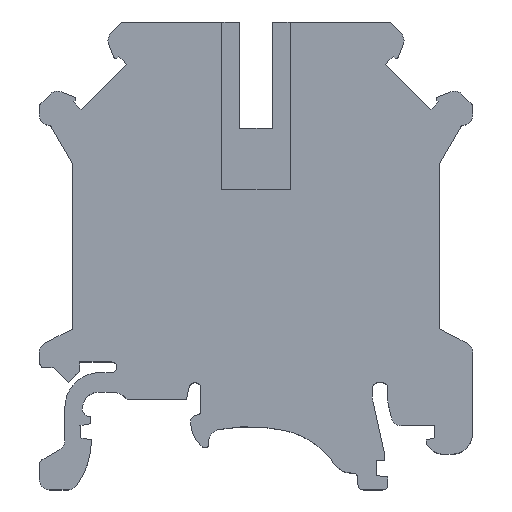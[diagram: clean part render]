
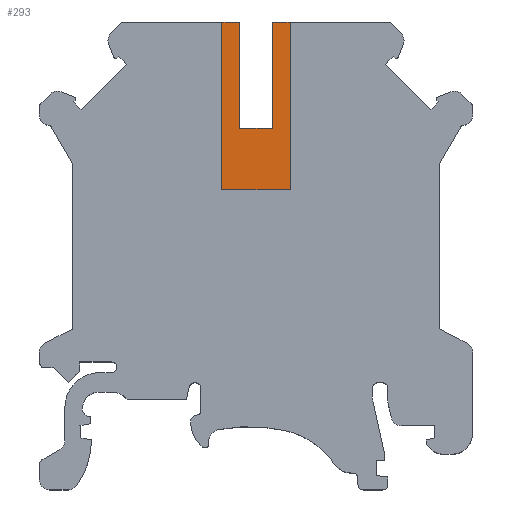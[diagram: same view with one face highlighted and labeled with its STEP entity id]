
A CAD part, top view. The second image highlights one B-rep face of the part: STEP entity #293.
In plain terms, the highlighted planar face has unit normal (0, 0, 1).
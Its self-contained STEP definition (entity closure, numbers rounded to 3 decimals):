
#293=ADVANCED_FACE('',(#563),#415,.T.);
#415=PLANE('',#3669);
#563=FACE_OUTER_BOUND('',#734,.T.);
#734=EDGE_LOOP('',(#2287,#2288,#2289,#2290,#2291,#2292,#2293,#2294));
#783=LINE('',#4700,#1140);
#1068=LINE('',#5488,#1425);
#1072=LINE('',#5504,#1429);
#1097=LINE('',#5550,#1454);
#1109=LINE('',#5577,#1466);
#1113=LINE('',#5585,#1470);
#1114=LINE('',#5587,#1471);
#1115=LINE('',#5588,#1472);
#1140=VECTOR('',#3734,1.);
#1425=VECTOR('',#4437,1.);
#1429=VECTOR('',#4451,1.);
#1454=VECTOR('',#4510,1.);
#1466=VECTOR('',#4552,1.);
#1470=VECTOR('',#4560,1.);
#1471=VECTOR('',#4563,1.);
#1472=VECTOR('',#4564,1.);
#2287=ORIENTED_EDGE('',*,*,#3257,.T.);
#2288=ORIENTED_EDGE('',*,*,#3258,.T.);
#2289=ORIENTED_EDGE('',*,*,#2803,.F.);
#2290=ORIENTED_EDGE('',*,*,#3216,.T.);
#2291=ORIENTED_EDGE('',*,*,#3241,.F.);
#2292=ORIENTED_EDGE('',*,*,#3253,.F.);
#2293=ORIENTED_EDGE('',*,*,#3208,.F.);
#2294=ORIENTED_EDGE('',*,*,#3259,.T.);
#2479=VERTEX_POINT('',#4699);
#2480=VERTEX_POINT('',#4701);
#2773=VERTEX_POINT('',#5487);
#2774=VERTEX_POINT('',#5489);
#2781=VERTEX_POINT('',#5505);
#2784=VERTEX_POINT('',#5549);
#2785=VERTEX_POINT('',#5582);
#2786=VERTEX_POINT('',#5584);
#2803=EDGE_CURVE('',#2479,#2480,#783,.T.);
#3208=EDGE_CURVE('',#2773,#2774,#1068,.T.);
#3216=EDGE_CURVE('',#2479,#2781,#1072,.T.);
#3241=EDGE_CURVE('',#2784,#2781,#1097,.T.);
#3253=EDGE_CURVE('',#2774,#2784,#1109,.T.);
#3257=EDGE_CURVE('',#2785,#2786,#1113,.T.);
#3258=EDGE_CURVE('',#2786,#2480,#1114,.T.);
#3259=EDGE_CURVE('',#2773,#2785,#1115,.T.);
#3669=AXIS2_PLACEMENT_3D('',#5589,#4565,#4566);
#3734=DIRECTION('',(1.,0.,0.));
#4437=DIRECTION('',(1.,0.,0.));
#4451=DIRECTION('',(0.,-1.,0.));
#4510=DIRECTION('',(-1.,0.,0.));
#4552=DIRECTION('',(0.,-1.,0.));
#4560=DIRECTION('',(-1.,0.,0.));
#4563=DIRECTION('',(0.,1.,0.));
#4564=DIRECTION('',(0.,-1.,0.));
#4565=DIRECTION('',(0.,0.,1.));
#4566=DIRECTION('',(1.,0.,0.));
#4699=CARTESIAN_POINT('',(-89.759,0.,1.55));
#4700=CARTESIAN_POINT('',(0.,0.,1.55));
#4701=CARTESIAN_POINT('',(-88.009,0.,1.55));
#5487=CARTESIAN_POINT('',(-84.809,0.,1.55));
#5488=CARTESIAN_POINT('',(0.,0.,1.55));
#5489=CARTESIAN_POINT('',(-83.059,0.,1.55));
#5504=CARTESIAN_POINT('',(-89.759,0.,1.55));
#5505=CARTESIAN_POINT('',(-89.759,-16.45,1.55));
#5549=CARTESIAN_POINT('',(-83.059,-16.45,1.55));
#5550=CARTESIAN_POINT('',(0.,-16.45,1.55));
#5577=CARTESIAN_POINT('',(-83.059,0.,1.55));
#5582=CARTESIAN_POINT('',(-84.809,-10.4,1.55));
#5584=CARTESIAN_POINT('',(-88.009,-10.4,1.55));
#5585=CARTESIAN_POINT('',(0.,-10.4,1.55));
#5587=CARTESIAN_POINT('',(-88.009,0.,1.55));
#5588=CARTESIAN_POINT('',(-84.809,0.,1.55));
#5589=CARTESIAN_POINT('',(0.,0.,1.55));
